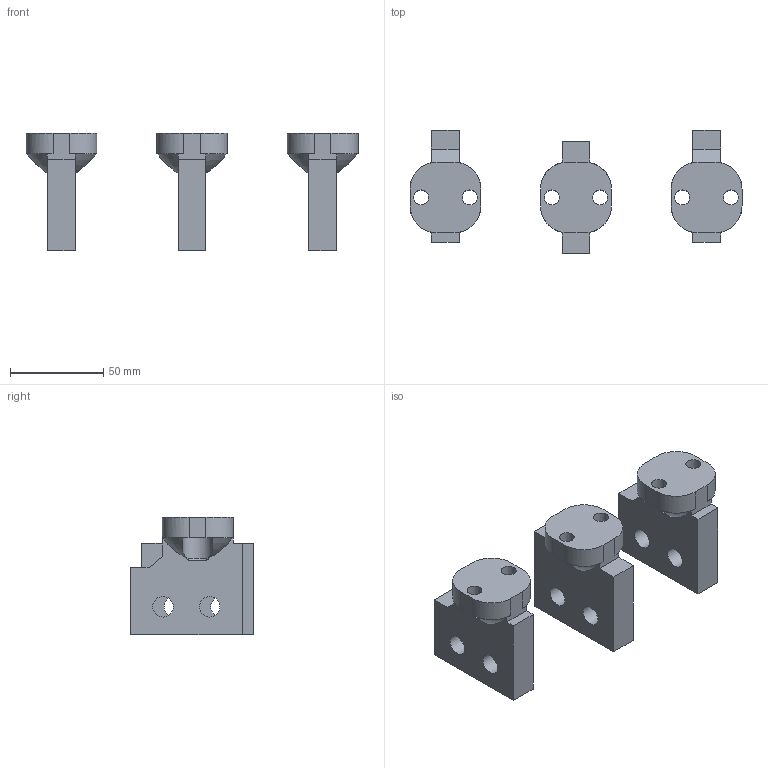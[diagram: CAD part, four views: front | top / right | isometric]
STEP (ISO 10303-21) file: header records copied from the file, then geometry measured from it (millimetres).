
FILE_DESCRIPTION(('STEP AP203'), '1');
FILE_NAME('雞碭噊 瞂貗鴀. 15擤 瞂贂', '', ('UNSPECIFIED'), ('UNSPECIFIED'), 'C3D Converter', 'C3D Toolkit', '');
FILE_SCHEMA(('CONFIG_CONTROL_DESIGN'));
Length unit declared in the file: millimetre
Assembly tree (3 placements, depth 2):
  (unnamed)
    (unnamed)
    (unnamed)
    (unnamed)
Bounding box: 178 x 66 x 63 mm (x, y, z)
Volume: 163841.3 mm3; surface area: 39547 mm2
Topology: 3 solids, 3 shells, 122 faces, 336 edges, 220 vertices
Faces by surface type: plane 74, cylinder 30, torus 12, bspline 6
Full cylindrical faces by diameter (mm): 8 x6, 11 x6
Entity records: 6976 total; most frequent: CARTESIAN_POINT 2728, ORIENTED_EDGE 648, DIRECTION 606, EDGE_CURVE 324, VERTEX_POINT 220, AXIS2_PLACEMENT_3D 216, LINE 174, VECTOR 174
